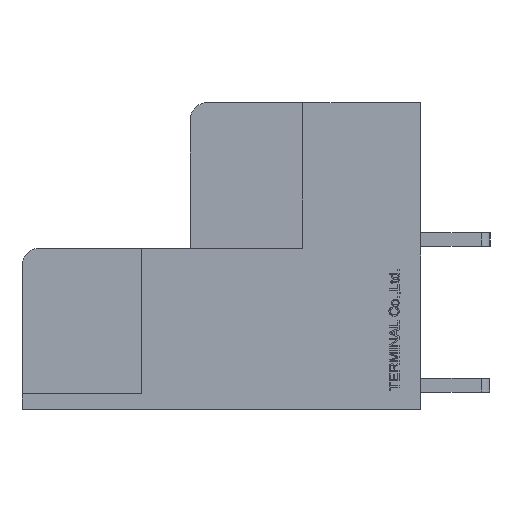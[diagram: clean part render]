
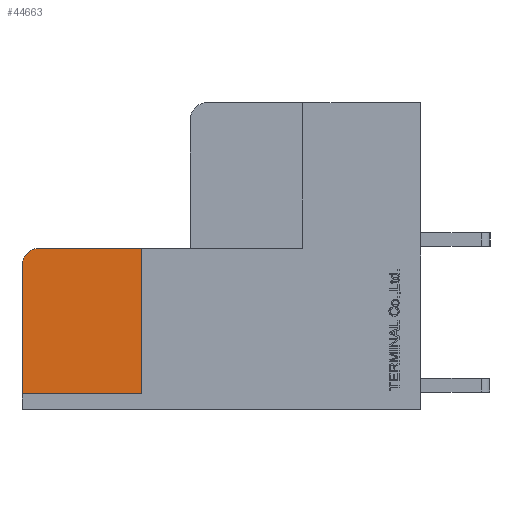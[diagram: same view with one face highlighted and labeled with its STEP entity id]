
A CAD part, left-side view. The second image highlights one B-rep face of the part: STEP entity #44663.
In plain terms, the highlighted planar face has unit normal (-1, 0, 0).
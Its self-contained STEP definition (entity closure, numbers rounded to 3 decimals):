
#2244=VECTOR('',#50746,1.);
#2601=VECTOR('',#51223,1.);
#2637=VECTOR('',#51260,1.);
#2639=VECTOR('',#51263,1.);
#7164=LINE('',#61759,#2244);
#7521=LINE('',#62711,#2601);
#7557=LINE('',#62781,#2637);
#7559=LINE('',#62785,#2639);
#12036=VERTEX_POINT('',#61758);
#12037=VERTEX_POINT('',#61760);
#12393=VERTEX_POINT('',#62710);
#12394=VERTEX_POINT('',#62712);
#12427=VERTEX_POINT('',#62782);
#16211=CIRCLE('',#47516,1.);
#17261=EDGE_CURVE('',#12036,#12037,#7164,.T.);
#17692=EDGE_CURVE('',#12393,#12394,#7521,.T.);
#17728=EDGE_CURVE('',#12427,#12393,#7557,.T.);
#17730=EDGE_CURVE('',#12037,#12427,#7559,.T.);
#18115=EDGE_CURVE('',#12394,#12036,#16211,.T.);
#26319=ORIENTED_EDGE('',*,*,#17730,.F.);
#26320=ORIENTED_EDGE('',*,*,#17261,.F.);
#26321=ORIENTED_EDGE('',*,*,#18115,.F.);
#26322=ORIENTED_EDGE('',*,*,#17692,.F.);
#26323=ORIENTED_EDGE('',*,*,#17728,.F.);
#38271=EDGE_LOOP('',(#26319,#26320,#26321,#26322,#26323));
#41485=FACE_BOUND('',#38271,.T.);
#44663=ADVANCED_FACE('',(#41485),#88957,.F.);
#47515=AXIS2_PLACEMENT_3D('',#64059,#51697,$);
#47516=AXIS2_PLACEMENT_3D('',#64060,#51698,#51699);
#50746=DIRECTION('',(0.,-1.,0.));
#51223=DIRECTION('',(0.,0.,1.));
#51260=DIRECTION('',(0.,1.,0.));
#51263=DIRECTION('',(0.,0.,-1.));
#51697=DIRECTION('',(1.,0.,0.));
#51698=DIRECTION('',(1.,0.,0.));
#51699=DIRECTION('',(0.,0.,-1.));
#61758=CARTESIAN_POINT('',(0.75,22.,9.3));
#61759=CARTESIAN_POINT('',(0.75,22.,9.3));
#61760=CARTESIAN_POINT('',(0.75,16.1,9.3));
#62710=CARTESIAN_POINT('',(0.75,23.,0.9));
#62711=CARTESIAN_POINT('',(0.75,23.,0.));
#62712=CARTESIAN_POINT('',(0.75,23.,8.3));
#62781=CARTESIAN_POINT('',(0.75,23.,0.9));
#62782=CARTESIAN_POINT('',(0.75,16.1,0.9));
#62785=CARTESIAN_POINT('',(0.75,16.1,0.9));
#64059=CARTESIAN_POINT('',(0.75,11.422,4.617));
#64060=CARTESIAN_POINT('',(0.75,22.,8.3));
#88957=PLANE('',#47515);
